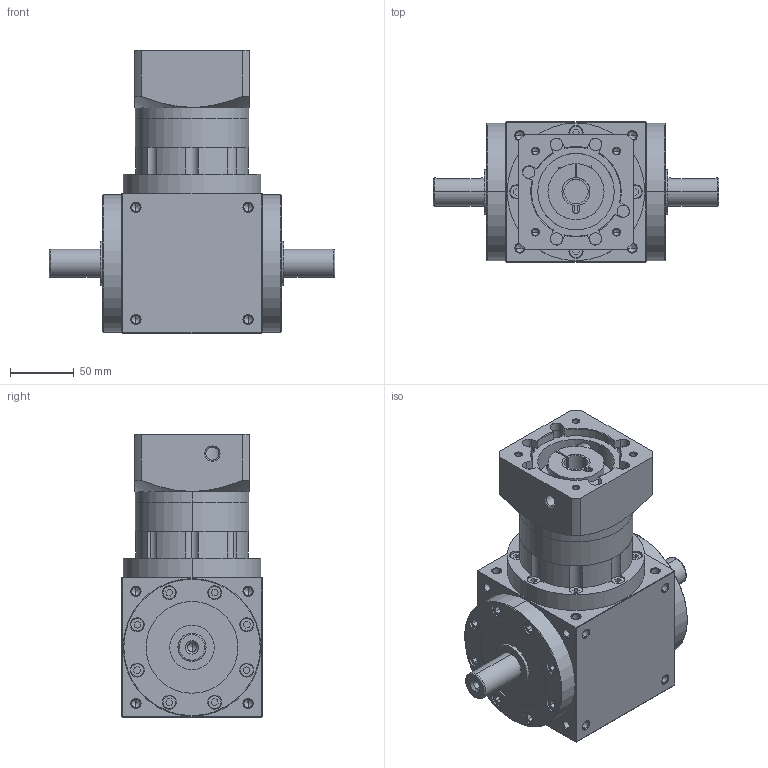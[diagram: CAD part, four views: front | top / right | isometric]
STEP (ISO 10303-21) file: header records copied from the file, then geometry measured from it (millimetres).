
FILE_DESCRIPTION (( 'STEP AP203' ), '1' );
FILE_NAME ('AT120-FL-L2-19-70-90M6.STEP', '2025-12-29T01:56:52', ( 'Windows User' ), ( 'P R C' ), 'SwSTEP 2.0', 'SolidWorks 2016', '' );
FILE_SCHEMA (( 'CONFIG_CONTROL_DESIGN' ));
Length unit declared in the file: millimetre
Products named in the file (6): AT120单级齿圈; 输入胀套-22; AT120输入法兰-B-70-M6-90; AT120-FL-L2-19-70-90M6; AT120-转角箱体-双轴输出; AT120-怀堤楊擘-蠶講
Assembly tree (5 placements, depth 2):
  AT120-FL-L2-19-70-90M6
    AT120-转角箱体-双轴输出
    AT120-怀堤楊擘-蠶講
    AT120单级齿圈
    输入胀套-22
    AT120输入法兰-B-70-M6-90
Bounding box: 224 x 110 x 222 mm (x, y, z)
Volume: 1672280.5 mm3; surface area: 261739.5 mm2
Topology: 5 solids, 17 shells, 1551 faces, 4016 edges, 2557 vertices
Faces by surface type: plane 781, cylinder 379, cone 233, bspline 158
Entity records: 54290 total; most frequent: CARTESIAN_POINT 17219, ORIENTED_EDGE 7848, DIRECTION 7009, EDGE_CURVE 3924, VERTEX_POINT 2557, VECTOR 2489, LINE 2489, AXIS2_PLACEMENT_3D 2260
